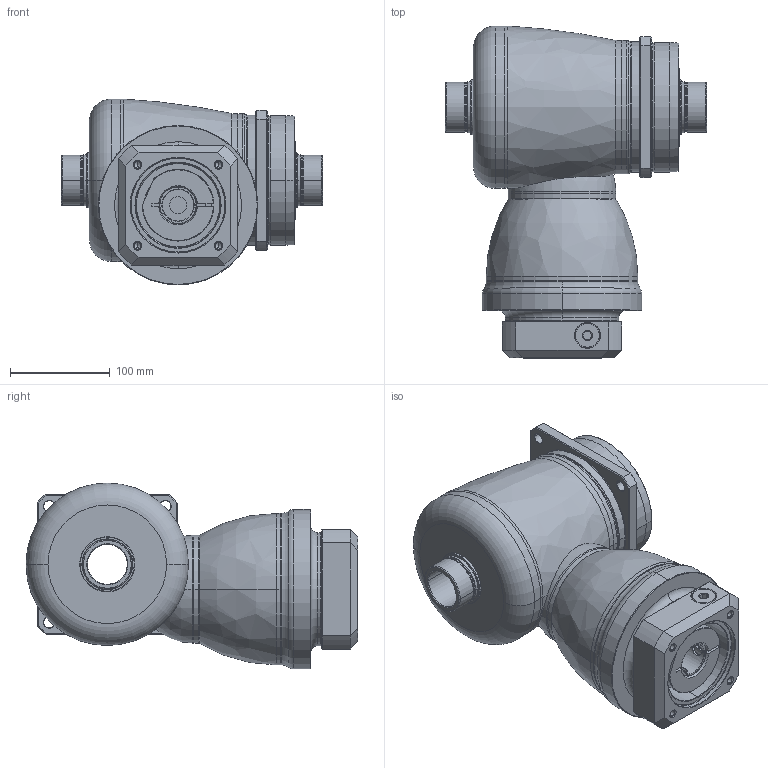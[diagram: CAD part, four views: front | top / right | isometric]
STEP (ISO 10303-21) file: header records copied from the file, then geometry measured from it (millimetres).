
FILE_DESCRIPTION((''),'2;1');
FILE_NAME('KF140_S4_1ST_32-P0409700101_ASM','2016-07-20T',('d01943'),(''),'PRO/ENGINEER BY PARAMETRIC TECHNOLOGY CORPORATION, 2008410','PRO/ENGINEER BY PARAMETRIC TECHNOLOGY CORPORATION, 2008410','');
FILE_SCHEMA(('CONFIG_CONTROL_DESIGN'));
Length unit declared in the file: millimetre
Products named in the file (11): P1008500002; P1804500001; P0914500001; P1315500001; P1007500001; P1318500201; P0409700101; P0503700010; P0912502201; 21711418017; KF140_S4_1ST_32-P0409700101_ASM
Assembly tree (10 placements, depth 2):
  KF140_S4_1ST_32-P0409700101_ASM
    P1008500002
    P1804500001
    P0914500001
    P1315500001
    P1007500001
    P1318500201
    P0409700101
    P0503700010
    P0912502201
    21711418017
Bounding box: 262 x 333 x 186.5 mm (x, y, z)
Volume: 4834233.2 mm3; surface area: 583094 mm2
Topology: 11 solids, 11 shells, 492 faces, 1086 edges, 638 vertices
Faces by surface type: cylinder 166, cone 134, plane 99, torus 70, bspline 21, sphere 2
Entity records: 18473 total; most frequent: CARTESIAN_POINT 7326, DIRECTION 2491, ORIENTED_EDGE 2136, EDGE_CURVE 1068, AXIS2_PLACEMENT_3D 1058, VERTEX_POINT 638, CIRCLE 566, EDGE_LOOP 562
